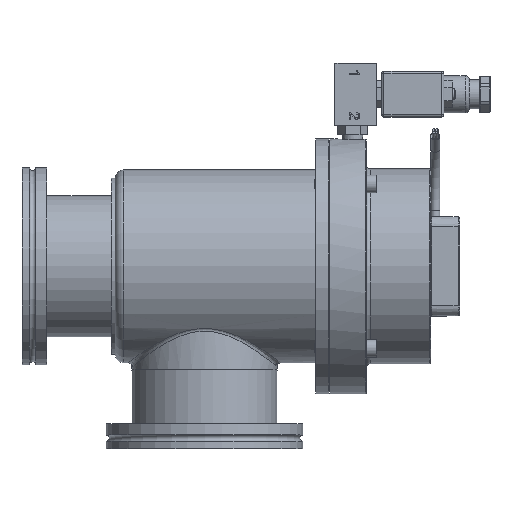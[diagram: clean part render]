
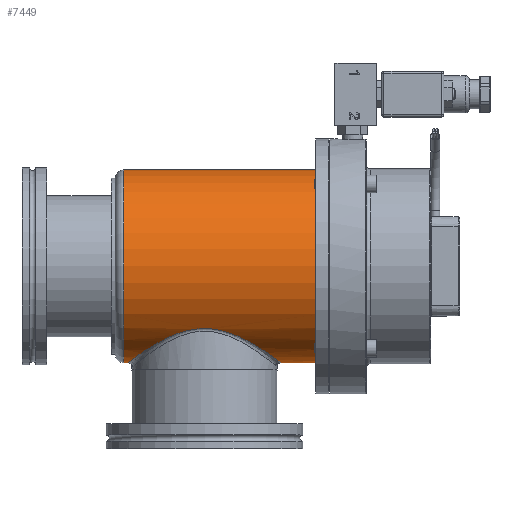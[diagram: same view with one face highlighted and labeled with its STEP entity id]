
A CAD part, top view. The second image highlights one B-rep face of the part: STEP entity #7449.
In plain terms, the highlighted cylindrical face has radius 46.5 mm (diameter 93 mm), a full revolution.
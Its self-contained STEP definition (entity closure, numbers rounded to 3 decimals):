
#3010=B_SPLINE_CURVE_WITH_KNOTS('',3,(#24894,#24895,#24896,#24897,#24898,
#24899,#24900,#24901,#24902,#24903,#24904,#24905,#24906,#24907,#24908,#24909,
#24910,#24911,#24912,#24913,#24914,#24915,#24916,#24917,#24918,#24919,#24920,
#24921,#24922,#24923,#24924,#24925,#24926,#24927,#24928,#24929,#24930,#24931,
#24932,#24933,#24934,#24935,#24936,#24937,#24938,#24939),.UNSPECIFIED.,.T.,
 .F.,(2,2,2,2,2,2,2,2,2,2,2,2,2,2,2,2,2,2,2,2,2,2,2,2,2),(-0.063,0.,0.063,
0.094,0.125,0.156,0.188,0.219,0.25,0.313,0.375,0.438,
0.5,0.531,0.563,0.625,0.656,0.688,0.719,0.75,0.813,0.875,0.938,
1.,1.063),.UNSPECIFIED.);
#6246=CYLINDRICAL_SURFACE('',#16532,46.5);
#6675=FACE_BOUND('',#9240,.T.);
#6676=FACE_BOUND('',#9241,.T.);
#6677=FACE_BOUND('',#9242,.T.);
#7449=ADVANCED_FACE('',(#6675,#6676,#6677),#6246,.T.);
#9240=EDGE_LOOP('',(#12250));
#9241=EDGE_LOOP('',(#12251));
#9242=EDGE_LOOP('',(#12252));
#12250=ORIENTED_EDGE('',*,*,#14949,.T.);
#12251=ORIENTED_EDGE('',*,*,#14950,.T.);
#12252=ORIENTED_EDGE('',*,*,#14951,.T.);
#13433=VERTEX_POINT('',#24893);
#13434=VERTEX_POINT('',#24940);
#13435=VERTEX_POINT('',#24942);
#14949=EDGE_CURVE('',#13433,#13433,#15447,.T.);
#14950=EDGE_CURVE('',#13434,#13434,#3010,.T.);
#14951=EDGE_CURVE('',#13435,#13435,#15448,.T.);
#15447=CIRCLE('',#16530,46.5);
#15448=CIRCLE('',#16531,46.5);
#16530=AXIS2_PLACEMENT_3D('',#24892,#19581,#19582);
#16531=AXIS2_PLACEMENT_3D('',#24941,#19583,#19584);
#16532=AXIS2_PLACEMENT_3D('',#24943,#19585,#19586);
#19581=DIRECTION('',(1.,0.,0.));
#19582=DIRECTION('',(0.,0.,-1.));
#19583=DIRECTION('',(-1.,0.,0.));
#19584=DIRECTION('',(0.,0.,1.));
#19585=DIRECTION('',(-1.,0.,0.));
#19586=DIRECTION('',(0.,0.,1.));
#24892=CARTESIAN_POINT('',(4.,0.,0.));
#24893=CARTESIAN_POINT('',(4.,0.,-46.5));
#24894=CARTESIAN_POINT('',(37.968,-30.064,35.474));
#24895=CARTESIAN_POINT('',(48.032,-30.064,35.474));
#24896=CARTESIAN_POINT('',(52.901,-31.3,34.474));
#24897=CARTESIAN_POINT('',(59.385,-33.868,31.885));
#24898=CARTESIAN_POINT('',(61.453,-34.849,30.826));
#24899=CARTESIAN_POINT('',(65.29,-36.853,28.4));
#24900=CARTESIAN_POINT('',(67.071,-37.881,27.031));
#24901=CARTESIAN_POINT('',(70.388,-39.898,23.955));
#24902=CARTESIAN_POINT('',(71.934,-40.896,22.227));
#24903=CARTESIAN_POINT('',(74.659,-42.712,18.5));
#24904=CARTESIAN_POINT('',(75.851,-43.536,16.494));
#24905=CARTESIAN_POINT('',(77.853,-44.945,12.143));
#24906=CARTESIAN_POINT('',(78.643,-45.514,9.827));
#24907=CARTESIAN_POINT('',(79.712,-46.288,5.049));
#24908=CARTESIAN_POINT('',(79.996,-46.497,2.53));
#24909=CARTESIAN_POINT('',(80.008,-46.506,-4.901));
#24910=CARTESIAN_POINT('',(78.892,-45.677,-9.844));
#24911=CARTESIAN_POINT('',(74.912,-42.875,-18.574));
#24912=CARTESIAN_POINT('',(72.101,-40.942,-22.354));
#24913=CARTESIAN_POINT('',(65.451,-36.893,-28.545));
#24914=CARTESIAN_POINT('',(61.575,-34.738,-31.007));
#24915=CARTESIAN_POINT('',(52.929,-31.308,-34.467));
#24916=CARTESIAN_POINT('',(48.026,-30.066,-35.472));
#24917=CARTESIAN_POINT('',(40.507,-30.063,-35.475));
#24918=CARTESIAN_POINT('',(38.066,-30.352,-35.235));
#24919=CARTESIAN_POINT('',(33.293,-31.392,-34.311));
#24920=CARTESIAN_POINT('',(30.979,-32.142,-33.625));
#24921=CARTESIAN_POINT('',(24.474,-34.713,-31.035));
#24922=CARTESIAN_POINT('',(20.607,-36.861,-28.585));
#24923=CARTESIAN_POINT('',(15.628,-39.888,-23.971));
#24924=CARTESIAN_POINT('',(14.08,-40.887,-22.244));
#24925=CARTESIAN_POINT('',(11.351,-42.705,-18.516));
#24926=CARTESIAN_POINT('',(10.157,-43.531,-16.509));
#24927=CARTESIAN_POINT('',(8.153,-44.941,-12.158));
#24928=CARTESIAN_POINT('',(7.361,-45.511,-9.84));
#24929=CARTESIAN_POINT('',(6.29,-46.287,-5.06));
#24930=CARTESIAN_POINT('',(6.004,-46.497,-2.539));
#24931=CARTESIAN_POINT('',(5.991,-46.506,4.897));
#24932=CARTESIAN_POINT('',(7.107,-45.677,9.843));
#24933=CARTESIAN_POINT('',(11.089,-42.874,18.577));
#24934=CARTESIAN_POINT('',(13.903,-40.939,22.359));
#24935=CARTESIAN_POINT('',(20.559,-36.887,28.553));
#24936=CARTESIAN_POINT('',(24.438,-34.732,31.014));
#24937=CARTESIAN_POINT('',(33.092,-31.302,34.473));
#24938=CARTESIAN_POINT('',(37.968,-30.064,35.474));
#24939=CARTESIAN_POINT('',(48.032,-30.064,35.474));
#24940=CARTESIAN_POINT('',(43.,-30.064,35.474));
#24941=CARTESIAN_POINT('',(98.6,0.,0.));
#24942=CARTESIAN_POINT('',(98.6,0.,46.5));
#24943=CARTESIAN_POINT('',(0.,0.,0.));
